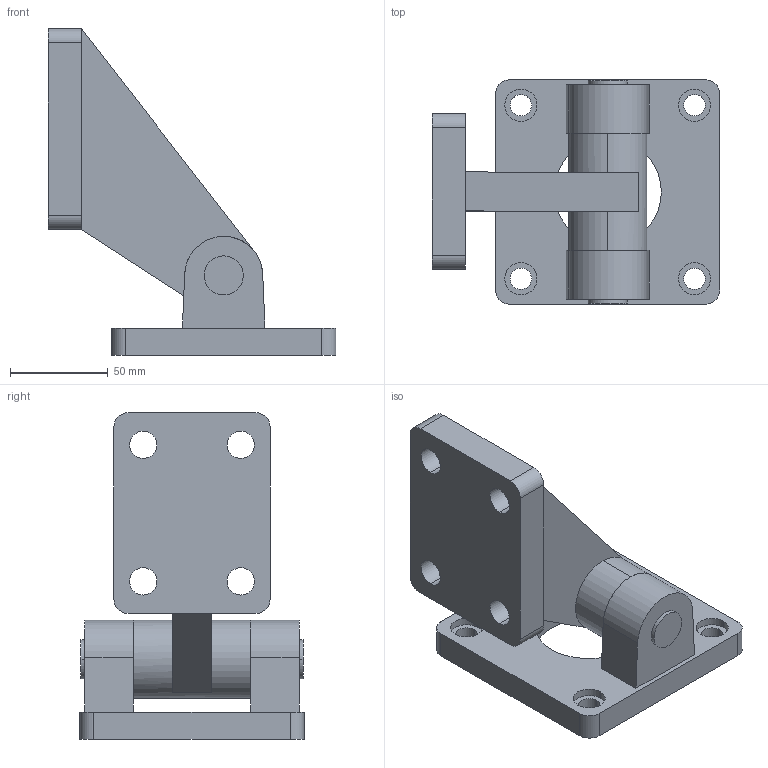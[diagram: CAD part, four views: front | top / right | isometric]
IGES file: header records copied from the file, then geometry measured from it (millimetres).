
Global section: file name: No Iges File Name specified; native system: AutoDesk Inventor R11.0; preprocessor: AutoDesk Inventor Iges Exporter R11.0; author: No Author specified; organization: No Organization specified; date: 20060712.122404; units: millimetre
Bounding box: 147.5 x 115 x 167.5 mm (x, y, z)
Volume: 541627.5 mm3; surface area: 94605.2 mm2
Topology: 2 solids, 2 shells, 79 faces, 199 edges, 132 vertices
Faces by surface type: bspline 32, plane 29, cylinder 18
